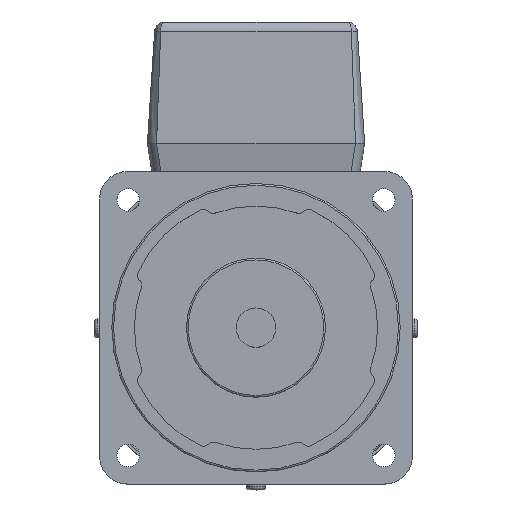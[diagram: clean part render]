
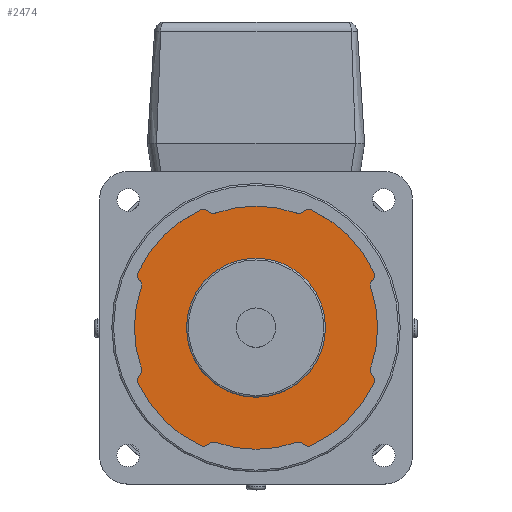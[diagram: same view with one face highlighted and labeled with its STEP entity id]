
A CAD part, top view. The second image highlights one B-rep face of the part: STEP entity #2474.
In plain terms, the highlighted planar face has unit normal (0, 0, 1).
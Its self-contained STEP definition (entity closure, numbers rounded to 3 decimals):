
#1202=CARTESIAN_POINT('',(-13.722,-33.501,131.0));
#1203=VERTEX_POINT('',#1202);
#1219=CARTESIAN_POINT('',(-11.626,-33.013,131.0));
#1220=VERTEX_POINT('',#1219);
#1227=CARTESIAN_POINT('',(-12.291,-34.899,131.0));
#1228=DIRECTION('',(0.0,0.0,-1.0));
#1229=DIRECTION('',(-0.408,0.913,0.0));
#1230=AXIS2_PLACEMENT_3D('',#1227,#1228,#1229);
#1231=CIRCLE('',#1230,2.0);
#1232=EDGE_CURVE('',#1220,#1203,#1231,.F.);
#1252=CARTESIAN_POINT('',(11.626,-33.013,131.0));
#1253=VERTEX_POINT('',#1252);
#1260=CARTESIAN_POINT('',(0.,0.,131.));
#1261=DIRECTION('',(0.,0.,1.0));
#1262=DIRECTION('',(-0.383,-0.924,0.));
#1263=AXIS2_PLACEMENT_3D('',#1260,#1261,#1262);
#1264=CIRCLE('',#1263,35.0);
#1265=EDGE_CURVE('',#1220,#1253,#1264,.T.);
#1275=CARTESIAN_POINT('',(13.722,-33.501,131.0));
#1276=VERTEX_POINT('',#1275);
#1285=CARTESIAN_POINT('',(12.291,-34.899,131.0));
#1286=DIRECTION('',(0.0,0.0,-1.0));
#1287=DIRECTION('',(0.408,0.913,0.0));
#1288=AXIS2_PLACEMENT_3D('',#1285,#1286,#1287);
#1289=CIRCLE('',#1288,2.0);
#1290=EDGE_CURVE('',#1276,#1253,#1289,.F.);
#1317=CARTESIAN_POINT('',(16.006,-33.913,131.0));
#1318=VERTEX_POINT('',#1317);
#1325=CARTESIAN_POINT('',(15.152,-32.104,131.0));
#1326=DIRECTION('',(0.0,0.0,1.0));
#1327=DIRECTION('',(0.715,0.699,0.0));
#1328=AXIS2_PLACEMENT_3D('',#1325,#1326,#1327);
#1329=CIRCLE('',#1328,2.);
#1330=EDGE_CURVE('',#1276,#1318,#1329,.T.);
#1341=CARTESIAN_POINT('',(33.913,-16.006,131.0));
#1342=VERTEX_POINT('',#1341);
#1351=CARTESIAN_POINT('',(0.,0.,131.));
#1352=DIRECTION('',(0.,0.,1.0));
#1353=DIRECTION('',(0.383,-0.924,0.));
#1354=AXIS2_PLACEMENT_3D('',#1351,#1352,#1353);
#1355=CIRCLE('',#1354,37.5);
#1356=EDGE_CURVE('',#1318,#1342,#1355,.T.);
#1383=CARTESIAN_POINT('',(33.501,-13.722,131.0));
#1384=VERTEX_POINT('',#1383);
#1391=CARTESIAN_POINT('',(32.104,-15.152,131.0));
#1392=DIRECTION('',(0.0,0.0,1.0));
#1393=DIRECTION('',(-0.904,0.427,0.0));
#1394=AXIS2_PLACEMENT_3D('',#1391,#1392,#1393);
#1395=CIRCLE('',#1394,2.);
#1396=EDGE_CURVE('',#1342,#1384,#1395,.T.);
#1417=CARTESIAN_POINT('',(33.013,-11.626,131.0));
#1418=VERTEX_POINT('',#1417);
#1425=CARTESIAN_POINT('',(34.899,-12.291,131.0));
#1426=DIRECTION('',(0.0,0.0,-1.0));
#1427=DIRECTION('',(-0.913,-0.408,0.0));
#1428=AXIS2_PLACEMENT_3D('',#1425,#1426,#1427);
#1429=CIRCLE('',#1428,2.0);
#1430=EDGE_CURVE('',#1418,#1384,#1429,.F.);
#1440=CARTESIAN_POINT('',(33.013,11.626,131.0));
#1441=VERTEX_POINT('',#1440);
#1450=CARTESIAN_POINT('',(0.,0.,131.));
#1451=DIRECTION('',(0.,0.,1.0));
#1452=DIRECTION('',(0.924,-0.383,0.));
#1453=AXIS2_PLACEMENT_3D('',#1450,#1451,#1452);
#1454=CIRCLE('',#1453,35.);
#1455=EDGE_CURVE('',#1418,#1441,#1454,.T.);
#1473=CARTESIAN_POINT('',(33.501,13.722,131.0));
#1474=VERTEX_POINT('',#1473);
#1483=CARTESIAN_POINT('',(34.899,12.291,131.0));
#1484=DIRECTION('',(0.0,0.0,-1.0));
#1485=DIRECTION('',(-0.913,0.408,0.0));
#1486=AXIS2_PLACEMENT_3D('',#1483,#1484,#1485);
#1487=CIRCLE('',#1486,2.0);
#1488=EDGE_CURVE('',#1474,#1441,#1487,.F.);
#1515=CARTESIAN_POINT('',(33.913,16.006,131.0));
#1516=VERTEX_POINT('',#1515);
#1523=CARTESIAN_POINT('',(32.104,15.152,131.0));
#1524=DIRECTION('',(0.0,0.0,1.0));
#1525=DIRECTION('',(-0.699,0.715,0.0));
#1526=AXIS2_PLACEMENT_3D('',#1523,#1524,#1525);
#1527=CIRCLE('',#1526,2.);
#1528=EDGE_CURVE('',#1474,#1516,#1527,.T.);
#1539=CARTESIAN_POINT('',(16.006,33.913,131.0));
#1540=VERTEX_POINT('',#1539);
#1549=CARTESIAN_POINT('',(0.,0.,131.));
#1550=DIRECTION('',(0.,0.,1.0));
#1551=DIRECTION('',(0.924,0.383,0.));
#1552=AXIS2_PLACEMENT_3D('',#1549,#1550,#1551);
#1553=CIRCLE('',#1552,37.5);
#1554=EDGE_CURVE('',#1516,#1540,#1553,.T.);
#1581=CARTESIAN_POINT('',(13.722,33.501,131.0));
#1582=VERTEX_POINT('',#1581);
#1589=CARTESIAN_POINT('',(15.152,32.104,131.0));
#1590=DIRECTION('',(0.0,0.0,1.0));
#1591=DIRECTION('',(-0.427,-0.904,0.0));
#1592=AXIS2_PLACEMENT_3D('',#1589,#1590,#1591);
#1593=CIRCLE('',#1592,2.);
#1594=EDGE_CURVE('',#1540,#1582,#1593,.T.);
#1615=CARTESIAN_POINT('',(11.626,33.013,131.0));
#1616=VERTEX_POINT('',#1615);
#1623=CARTESIAN_POINT('',(12.291,34.899,131.0));
#1624=DIRECTION('',(0.0,0.0,-1.0));
#1625=DIRECTION('',(0.408,-0.913,0.0));
#1626=AXIS2_PLACEMENT_3D('',#1623,#1624,#1625);
#1627=CIRCLE('',#1626,2.0);
#1628=EDGE_CURVE('',#1616,#1582,#1627,.F.);
#1638=CARTESIAN_POINT('',(-11.626,33.013,131.0));
#1639=VERTEX_POINT('',#1638);
#1648=CARTESIAN_POINT('',(0.,0.,131.));
#1649=DIRECTION('',(0.,0.,1.0));
#1650=DIRECTION('',(0.383,0.924,0.));
#1651=AXIS2_PLACEMENT_3D('',#1648,#1649,#1650);
#1652=CIRCLE('',#1651,35.0);
#1653=EDGE_CURVE('',#1616,#1639,#1652,.T.);
#1671=CARTESIAN_POINT('',(-13.722,33.501,131.0));
#1672=VERTEX_POINT('',#1671);
#1681=CARTESIAN_POINT('',(-12.291,34.899,131.0));
#1682=DIRECTION('',(0.0,0.0,-1.0));
#1683=DIRECTION('',(-0.408,-0.913,0.0));
#1684=AXIS2_PLACEMENT_3D('',#1681,#1682,#1683);
#1685=CIRCLE('',#1684,2.0);
#1686=EDGE_CURVE('',#1672,#1639,#1685,.F.);
#1713=CARTESIAN_POINT('',(-16.006,33.913,131.0));
#1714=VERTEX_POINT('',#1713);
#1721=CARTESIAN_POINT('',(-15.152,32.104,131.0));
#1722=DIRECTION('',(0.0,0.0,1.0));
#1723=DIRECTION('',(-0.715,-0.699,0.0));
#1724=AXIS2_PLACEMENT_3D('',#1721,#1722,#1723);
#1725=CIRCLE('',#1724,2.);
#1726=EDGE_CURVE('',#1672,#1714,#1725,.T.);
#1747=CARTESIAN_POINT('',(-33.913,16.006,131.0));
#1748=VERTEX_POINT('',#1747);
#1755=CARTESIAN_POINT('',(0.,0.,131.));
#1756=DIRECTION('',(0.,0.,1.0));
#1757=DIRECTION('',(-0.383,0.924,0.));
#1758=AXIS2_PLACEMENT_3D('',#1755,#1756,#1757);
#1759=CIRCLE('',#1758,37.5);
#1760=EDGE_CURVE('',#1714,#1748,#1759,.T.);
#1779=CARTESIAN_POINT('',(-33.501,13.722,131.0));
#1780=VERTEX_POINT('',#1779);
#1787=CARTESIAN_POINT('',(-32.104,15.152,131.0));
#1788=DIRECTION('',(0.0,0.0,1.0));
#1789=DIRECTION('',(0.904,-0.427,0.0));
#1790=AXIS2_PLACEMENT_3D('',#1787,#1788,#1789);
#1791=CIRCLE('',#1790,2.);
#1792=EDGE_CURVE('',#1748,#1780,#1791,.T.);
#1813=CARTESIAN_POINT('',(-33.013,11.626,131.0));
#1814=VERTEX_POINT('',#1813);
#1821=CARTESIAN_POINT('',(-34.899,12.291,131.0));
#1822=DIRECTION('',(0.0,0.0,-1.0));
#1823=DIRECTION('',(0.913,0.408,0.0));
#1824=AXIS2_PLACEMENT_3D('',#1821,#1822,#1823);
#1825=CIRCLE('',#1824,2.0);
#1826=EDGE_CURVE('',#1814,#1780,#1825,.F.);
#1836=CARTESIAN_POINT('',(-33.013,-11.626,131.0));
#1837=VERTEX_POINT('',#1836);
#1846=CARTESIAN_POINT('',(0.,0.,131.));
#1847=DIRECTION('',(0.,0.,1.0));
#1848=DIRECTION('',(-0.924,0.383,0.));
#1849=AXIS2_PLACEMENT_3D('',#1846,#1847,#1848);
#1850=CIRCLE('',#1849,35.0);
#1851=EDGE_CURVE('',#1814,#1837,#1850,.T.);
#1869=CARTESIAN_POINT('',(-33.501,-13.722,131.0));
#1870=VERTEX_POINT('',#1869);
#1879=CARTESIAN_POINT('',(-34.899,-12.291,131.0));
#1880=DIRECTION('',(0.0,0.0,-1.0));
#1881=DIRECTION('',(0.913,-0.408,0.0));
#1882=AXIS2_PLACEMENT_3D('',#1879,#1880,#1881);
#1883=CIRCLE('',#1882,2.0);
#1884=EDGE_CURVE('',#1870,#1837,#1883,.F.);
#1911=CARTESIAN_POINT('',(-33.913,-16.006,131.0));
#1912=VERTEX_POINT('',#1911);
#1919=CARTESIAN_POINT('',(-32.104,-15.152,131.0));
#1920=DIRECTION('',(0.0,0.0,1.0));
#1921=DIRECTION('',(0.699,-0.715,0.0));
#1922=AXIS2_PLACEMENT_3D('',#1919,#1920,#1921);
#1923=CIRCLE('',#1922,2.);
#1924=EDGE_CURVE('',#1870,#1912,#1923,.T.);
#1935=CARTESIAN_POINT('',(-16.006,-33.913,131.0));
#1936=VERTEX_POINT('',#1935);
#1945=CARTESIAN_POINT('',(0.,0.,131.));
#1946=DIRECTION('',(0.,0.,1.0));
#1947=DIRECTION('',(-0.924,-0.383,0.));
#1948=AXIS2_PLACEMENT_3D('',#1945,#1946,#1947);
#1949=CIRCLE('',#1948,37.5);
#1950=EDGE_CURVE('',#1912,#1936,#1949,.T.);
#1976=CARTESIAN_POINT('',(-15.152,-32.104,131.0));
#1977=DIRECTION('',(0.0,0.0,1.0));
#1978=DIRECTION('',(0.427,0.904,0.0));
#1979=AXIS2_PLACEMENT_3D('',#1976,#1977,#1978);
#1980=CIRCLE('',#1979,2.);
#1981=EDGE_CURVE('',#1936,#1203,#1980,.T.);
#2417=CARTESIAN_POINT('',(20.0,0.,131.0));
#2418=VERTEX_POINT('',#2417);
#2419=CARTESIAN_POINT('',(0.,0.,131.0));
#2420=DIRECTION('',(0.0,0.0,-1.0));
#2421=DIRECTION('',(-1.0,0.0,0.0));
#2422=AXIS2_PLACEMENT_3D('',#2419,#2420,#2421);
#2423=CIRCLE('',#2422,20.0);
#2424=EDGE_CURVE('',#2418,#2418,#2423,.T.);
#2440=CARTESIAN_POINT('',(0.,0.,131.0));
#2441=DIRECTION('',(0.0,0.0,1.0));
#2442=DIRECTION('',(1.0,0.0,0.0));
#2443=AXIS2_PLACEMENT_3D('',#2440,#2441,#2442);
#2444=PLANE('',#2443);
#2445=ORIENTED_EDGE('',*,*,#1981,.T.);
#2446=ORIENTED_EDGE('',*,*,#1232,.F.);
#2447=ORIENTED_EDGE('',*,*,#1265,.T.);
#2448=ORIENTED_EDGE('',*,*,#1290,.F.);
#2449=ORIENTED_EDGE('',*,*,#1330,.T.);
#2450=ORIENTED_EDGE('',*,*,#1356,.T.);
#2451=ORIENTED_EDGE('',*,*,#1396,.T.);
#2452=ORIENTED_EDGE('',*,*,#1430,.F.);
#2453=ORIENTED_EDGE('',*,*,#1455,.T.);
#2454=ORIENTED_EDGE('',*,*,#1488,.F.);
#2455=ORIENTED_EDGE('',*,*,#1528,.T.);
#2456=ORIENTED_EDGE('',*,*,#1554,.T.);
#2457=ORIENTED_EDGE('',*,*,#1594,.T.);
#2458=ORIENTED_EDGE('',*,*,#1628,.F.);
#2459=ORIENTED_EDGE('',*,*,#1653,.T.);
#2460=ORIENTED_EDGE('',*,*,#1686,.F.);
#2461=ORIENTED_EDGE('',*,*,#1726,.T.);
#2462=ORIENTED_EDGE('',*,*,#1760,.T.);
#2463=ORIENTED_EDGE('',*,*,#1792,.T.);
#2464=ORIENTED_EDGE('',*,*,#1826,.F.);
#2465=ORIENTED_EDGE('',*,*,#1851,.T.);
#2466=ORIENTED_EDGE('',*,*,#1884,.F.);
#2467=ORIENTED_EDGE('',*,*,#1924,.T.);
#2468=ORIENTED_EDGE('',*,*,#1950,.T.);
#2469=EDGE_LOOP('',(#2445,#2446,#2447,#2448,#2449,#2450,#2451,#2452,#2453,#2454,#2455,#2456,#2457,#2458,#2459,#2460,#2461,#2462,#2463,#2464,#2465,#2466,#2467,#2468));
#2470=FACE_OUTER_BOUND('',#2469,.T.);
#2471=ORIENTED_EDGE('',*,*,#2424,.T.);
#2472=EDGE_LOOP('',(#2471));
#2473=FACE_BOUND('',#2472,.T.);
#2474=ADVANCED_FACE('',(#2470,#2473),#2444,.T.);
